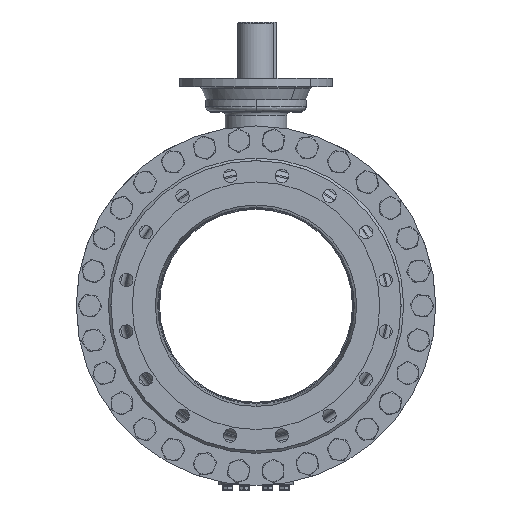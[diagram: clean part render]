
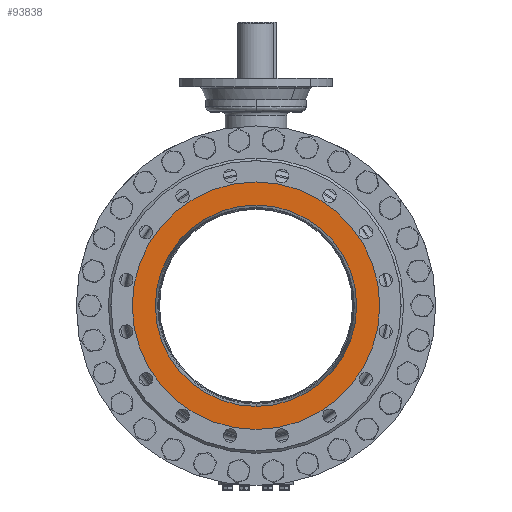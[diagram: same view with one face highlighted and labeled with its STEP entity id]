
A CAD part, left-side view. The second image highlights one B-rep face of the part: STEP entity #93838.
In plain terms, the highlighted planar face has unit normal (-1, 0, 0).
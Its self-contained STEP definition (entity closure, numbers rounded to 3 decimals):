
#16270=CARTESIAN_POINT('',(-381.,0.,0.));
#16271=DIRECTION('',(1.,0.,0.));
#16272=DIRECTION('',(0.,0.,1.));
#16273=AXIS2_PLACEMENT_3D('',#16270,#16271,#16272);
#16275=CARTESIAN_POINT('',(-381.,0.,0.));
#16276=DIRECTION('',(1.,0.,0.));
#16277=DIRECTION('',(0.,0.,-1.));
#16278=AXIS2_PLACEMENT_3D('',#16275,#16276,#16277);
#16280=CARTESIAN_POINT('',(-381.,0.,0.));
#16281=DIRECTION('',(1.,0.,0.));
#16282=DIRECTION('',(0.,0.,1.));
#16283=AXIS2_PLACEMENT_3D('',#16280,#16281,#16282);
#16285=CARTESIAN_POINT('',(-381.,0.,0.));
#16286=DIRECTION('',(-1.,0.,0.));
#16287=DIRECTION('',(0.,0.,1.));
#16288=AXIS2_PLACEMENT_3D('',#16285,#16286,#16287);
#63965=CARTESIAN_POINT('',(-381.,0.,196.1));
#63967=VERTEX_POINT('',#63965);
#63969=CARTESIAN_POINT('',(-381.,0.,-196.1));
#63971=VERTEX_POINT('',#63969);
#64000=CARTESIAN_POINT('',(-381.,0.,241.));
#64001=CARTESIAN_POINT('',(-381.,0.,-241.));
#64002=VERTEX_POINT('',#64000);
#64003=VERTEX_POINT('',#64001);
#93823=CARTESIAN_POINT('',(-381.,0.,0.));
#93824=DIRECTION('',(-1.,0.,0.));
#93825=DIRECTION('',(0.,0.,-1.));
#93826=AXIS2_PLACEMENT_3D('',#93823,#93824,#93825);
#93827=PLANE('',#93826);
#93829=ORIENTED_EDGE('',*,*,#93828,.T.);
#93831=ORIENTED_EDGE('',*,*,#93830,.T.);
#93832=EDGE_LOOP('',(#93829,#93831));
#93833=FACE_OUTER_BOUND('',#93832,.F.);
#93834=ORIENTED_EDGE('',*,*,#93802,.F.);
#93835=ORIENTED_EDGE('',*,*,#93818,.T.);
#93836=EDGE_LOOP('',(#93834,#93835));
#93837=FACE_BOUND('',#93836,.F.);
#93838=ADVANCED_FACE('',(#93833,#93837),#93827,.T.);
#16274=CIRCLE('',#16273,241.);
#16279=CIRCLE('',#16278,241.);
#16284=CIRCLE('',#16283,196.1);
#16289=CIRCLE('',#16288,196.1);
#93802=EDGE_CURVE('',#63967,#63971,#16284,.T.);
#93818=EDGE_CURVE('',#63967,#63971,#16289,.T.);
#93828=EDGE_CURVE('',#64002,#64003,#16274,.T.);
#93830=EDGE_CURVE('',#64003,#64002,#16279,.T.);
